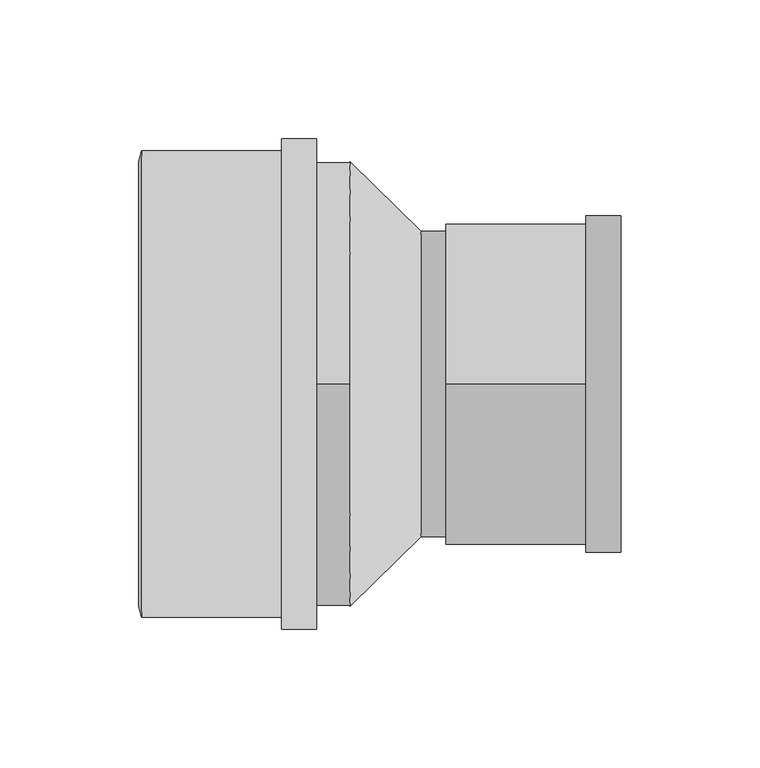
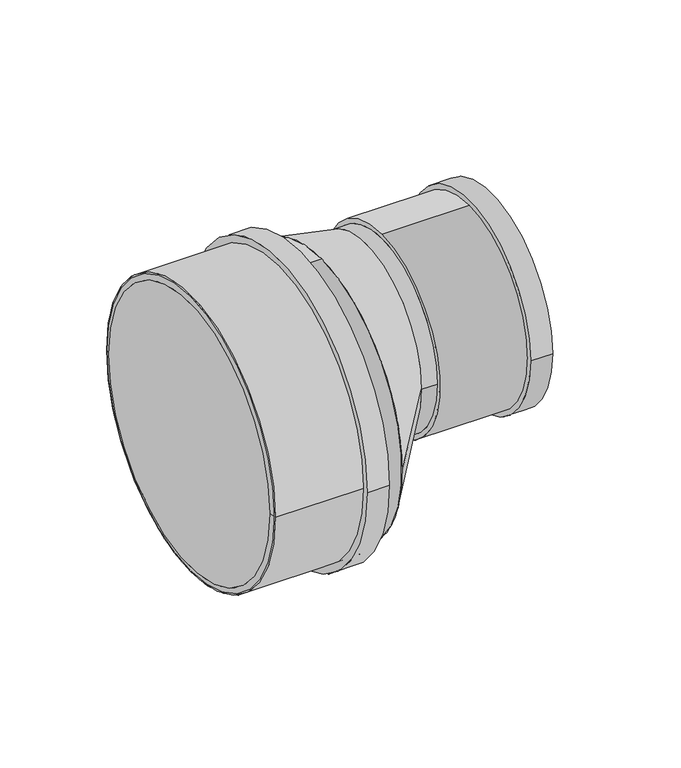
"""IFC4 building model written with IfcOpenShell, lengths in millimetres: pipe fitting geometry, Superdrain HTR-Reducer : Superdrain HTR-Reducer."""

import ifcopenshell
import ifcopenshell.guid

model = None  # the IFC model being written
_history = None  # IfcOwnerHistory: only IFC2X3 demands one
_inside = {}  # id of a spatial element -> (the spatial element, [elements in it])
_under = {}  # id of a project, library or spatial element -> (it, [spatial elements below it])
_declared = {}  # id of a project -> (the project, [libraries it declares])
_typed = {}  # id of a type object -> (the type object, [elements of that type])
_made_of = {}  # id of a material, layer set ... -> (it, [elements and type objects made of it])


def new_model(schema):
    """Start an empty IFC model of exactly this schema.

    Asked for "IFC4X3", IfcOpenShell would pick the latest addendum, in which some entities
    have other attributes; the version numbers below select the first issue.
    IFC2X3 requires an IfcOwnerHistory on every rooted entity: one is made here for all.
    """
    global model, _history
    if schema == "IFC4X3":
        model = ifcopenshell.file(schema_version=(4, 3, 0, 0))
    else:
        model = ifcopenshell.file(schema=schema)
    _inside.clear()
    _under.clear()
    _declared.clear()
    _typed.clear()
    _made_of.clear()
    _history = None
    if model.schema == "IFC2X3":
        org = make("IfcOrganization", Name="unknown")
        user = make(
            "IfcPersonAndOrganization",
            ThePerson=make("IfcPerson", FamilyName="unknown"),
            TheOrganization=org,
        )
        app = make(
            "IfcApplication",
            ApplicationDeveloper=org,
            Version="unknown",
            ApplicationFullName="unknown",
            ApplicationIdentifier="unknown",
        )
        _history = make(
            "IfcOwnerHistory",
            OwningUser=user,
            OwningApplication=app,
            ChangeAction="ADDED",
            CreationDate=0,
        )
    return model


def make(cls, **values):
    """One entity of the class cls with the attributes given. An attribute that is None is left unset."""
    return model.create_entity(
        cls, **{name: value for name, value in values.items() if value is not None}
    )


def rooted(cls, **values):
    """An entity with a GlobalId (a new one), such as an element, a storey or a relation."""
    return make(cls, GlobalId=ifcopenshell.guid.new(), OwnerHistory=_history, **values)


def si_unit(unit_type, name, prefix=None):
    """IfcSIUnit, for example si_unit("LENGTHUNIT", "METRE", prefix="MILLI")."""
    return make("IfcSIUnit", UnitType=unit_type, Prefix=prefix, Name=name)


def assignment(units):
    """IfcUnitAssignment: the units of a project."""
    return None if units is None else make("IfcUnitAssignment", Units=units)


def point(xyz):
    """IfcCartesianPoint."""
    return None if xyz is None else make("IfcCartesianPoint", Coordinates=xyz)


def direction(xyz):
    """IfcDirection."""
    return None if xyz is None else make("IfcDirection", DirectionRatios=xyz)


def frame(location, z_axis=None, x_axis=None):
    """IfcAxis2Placement3D, a coordinate frame: its origin and axes. An axis left out is left unset."""
    return make(
        "IfcAxis2Placement3D",
        Location=point(location),
        Axis=direction(z_axis),
        RefDirection=direction(x_axis),
    )


def frame_2d(location, x_axis=None):
    """IfcAxis2Placement2D, a coordinate frame in the plane: its origin and x axis."""
    return make(
        "IfcAxis2Placement2D", Location=point(location), RefDirection=direction(x_axis)
    )


def origin():
    """The frame at (0, 0, 0) with its axes left unset."""
    return frame((0.0, 0.0, 0.0))


def origin_2d():
    """The frame at (0, 0) in the plane with its x axis left unset."""
    return frame_2d((0.0, 0.0))


def place(relative_to, where):
    """IfcLocalPlacement: puts the frame where relative to a parent placement (None: the world)."""
    return make(
        "IfcLocalPlacement", PlacementRelTo=relative_to, RelativePlacement=where
    )


def context(
    kind, dimensions, precision=None, world=None, true_north=None, identifier=None
):
    """IfcGeometricRepresentationContext, for example the 3D "Model" context."""
    return make(
        "IfcGeometricRepresentationContext",
        ContextIdentifier=identifier,
        ContextType=kind,
        CoordinateSpaceDimension=dimensions,
        Precision=precision,
        WorldCoordinateSystem=world,
        TrueNorth=true_north,
    )


def project(units=None, contexts=None):
    """IfcProject with its units and contexts."""
    return rooted(
        "IfcProject",
        Name="project",
        RepresentationContexts=contexts,
        UnitsInContext=assignment(units),
    )


def spatial(cls, under=None, at=None, **own):
    """A site, building, storey or space (cls), placed at a placement, below another one or the project."""
    s = rooted(cls, ObjectPlacement=at, **own)
    if under is not None:
        _under.setdefault(under.id(), (under, []))[1].append(s)
    return s


def polyline(points):
    """IfcPolyline through the points."""
    return make("IfcPolyline", Points=[point(p) for p in points])


def circle_curve(where, radius):
    """IfcCircle in the frame where."""
    return make("IfcCircle", Position=where, Radius=radius)


def trimmed(basis, trim1, trim2, sense, master):
    """IfcTrimmedCurve: the piece of a basis curve between two trims."""
    return make(
        "IfcTrimmedCurve",
        BasisCurve=basis,
        Trim1=trim1,
        Trim2=trim2,
        SenseAgreement=sense,
        MasterRepresentation=master,
    )


def segment(curve, same_sense, transition):
    """IfcCompositeCurveSegment."""
    return make(
        "IfcCompositeCurveSegment",
        Transition=transition,
        SameSense=same_sense,
        ParentCurve=curve,
    )


def composite_curve(segments, self_intersect=None):
    """IfcCompositeCurve: segments joined end to end."""
    return make("IfcCompositeCurve", Segments=segments, SelfIntersect=self_intersect)


def outline(outer, holes=None, kind="AREA"):
    """IfcArbitraryClosedProfileDef: a profile drawn as a closed curve; with holes, ...WithVoids."""
    if holes is None:
        return make("IfcArbitraryClosedProfileDef", ProfileType=kind, OuterCurve=outer)
    return make(
        "IfcArbitraryProfileDefWithVoids",
        ProfileType=kind,
        OuterCurve=outer,
        InnerCurves=holes,
    )


def extrude(swept, where, along, depth):
    """IfcExtrudedAreaSolid: the profile swept, set in the frame where, extruded along a direction by depth."""
    return make(
        "IfcExtrudedAreaSolid",
        SweptArea=swept,
        Position=where,
        ExtrudedDirection=direction(along),
        Depth=depth,
    )


def shape(context_of_items, identifier, shape_type, items):
    """IfcShapeRepresentation: the items that make up one representation, for example the "Body"."""
    return make(
        "IfcShapeRepresentation",
        ContextOfItems=context_of_items,
        RepresentationIdentifier=identifier,
        RepresentationType=shape_type,
        Items=items,
    )


def source(mapping_origin, context_of_items, identifier, shape_type, items):
    """IfcRepresentationMap: a shape defined once, which mapped items show again and again."""
    return make(
        "IfcRepresentationMap",
        MappingOrigin=mapping_origin,
        MappedRepresentation=shape(context_of_items, identifier, shape_type, items),
    )


def transform(
    local_origin,
    x_axis=None,
    y_axis=None,
    z_axis=None,
    scale=None,
    scale2=None,
    scale3=None,
    uniform=True,
):
    """IfcCartesianTransformationOperator3D, or its non-uniform kind. x_axis, y_axis, z_axis: its Axis1, 2, 3."""
    if uniform:
        return make(
            "IfcCartesianTransformationOperator3D",
            Axis1=direction(x_axis),
            Axis2=direction(y_axis),
            LocalOrigin=point(local_origin),
            Scale=scale,
            Axis3=direction(z_axis),
        )
    return make(
        "IfcCartesianTransformationOperator3DnonUniform",
        Axis1=direction(x_axis),
        Axis2=direction(y_axis),
        LocalOrigin=point(local_origin),
        Scale=scale,
        Axis3=direction(z_axis),
        Scale2=scale2,
        Scale3=scale3,
    )


def mapped(mapping_source, mapping_target):
    """IfcMappedItem: shows the shape of a source again, moved by a transform."""
    return make(
        "IfcMappedItem", MappingSource=mapping_source, MappingTarget=mapping_target
    )


def made_of(thing, what):
    """Note that an element or type object is made of a material, layer set ...; save() writes the relation."""
    if what is not None:
        _made_of.setdefault(what.id(), (what, []))[1].append(thing)
    return thing


def element(
    cls,
    number,
    at=None,
    inside=None,
    cuts=None,
    type_object=None,
    material=None,
    context=None,
    identifier="Body",
    shape_type=None,
    held_by="IfcProductDefinitionShape",
    body=None,
    shapes=None,
    **own,
):
    """One element of the class cls, such as IfcWall. Its Tag is "e" and its number.

    at: its placement. inside: the storey or other place that contains it. cuts: it is an
    opening in that element (IfcRelVoidsElement). A single representation is given by context,
    identifier, shape_type and body (its items); several are given by shapes. held_by: the class
    of the entity that holds the representations. save() writes the other relations.
    """
    e = rooted(cls, Tag="e%d" % number, ObjectPlacement=at, **own)
    if body is not None:
        shapes = [shape(context, identifier, shape_type, body)]
    if shapes is not None:
        e.Representation = make(held_by, Representations=shapes)
    if inside is not None:
        _inside.setdefault(inside.id(), (inside, []))[1].append(e)
    if cuts is not None:
        rooted(
            "IfcRelVoidsElement", RelatingBuildingElement=cuts, RelatedOpeningElement=e
        )
    if type_object is not None:
        _typed.setdefault(type_object.id(), (type_object, []))[1].append(e)
    return made_of(e, material)


def aggregate(whole, parts):
    """IfcRelAggregates: a whole, such as a stair, and the parts it consists of."""
    return rooted("IfcRelAggregates", RelatingObject=whole, RelatedObjects=parts)


def save(model, path):
    """Write the relations noted so far, then the file.

    IfcRelAggregates (storeys below a building ...), IfcRelContainedInSpatialStructure (elements
    in a storey), IfcRelDefinesByType, IfcRelAssociatesMaterial and IfcRelDeclares: one each for
    every whole, place, type object, material and project.
    """
    for whole, parts in _under.values():
        aggregate(whole, parts)
    for where, things in _inside.values():
        rooted(
            "IfcRelContainedInSpatialStructure",
            RelatedElements=things,
            RelatingStructure=where,
        )
    for kind, things in _typed.values():
        rooted("IfcRelDefinesByType", RelatedObjects=things, RelatingType=kind)
    for what, things in _made_of.values():
        rooted("IfcRelAssociatesMaterial", RelatedObjects=things, RelatingMaterial=what)
    for by, libraries in _declared.values():
        rooted("IfcRelDeclares", RelatingContext=by, RelatedDefinitions=libraries)
    model.write(path)


def plane_surface(at):
    """IfcPlane: the flat surface through the origin of the frame at, square to its z axis."""
    return make("IfcPlane", Position=at)


def revolved_surface(curve, axis_point, axis_direction):
    """IfcSurfaceOfRevolution: the curve turned about the line through axis_point along axis_direction."""
    return make(
        "IfcSurfaceOfRevolution",
        SweptCurve=make("IfcArbitraryOpenProfileDef", ProfileType="CURVE", Curve=curve),
        AxisPosition=make("IfcAxis1Placement", Location=point(axis_point), Axis=direction(axis_direction)),
    )


def spline_surface(u_degree, v_degree, points, u_multiplicities, v_multiplicities, u_knots, v_knots, weights=None):
    """IfcBSplineSurfaceWithKnots; with weights, IfcRationalBSplineSurfaceWithKnots. points: one row for each step in u."""
    own = dict(
        UDegree=u_degree,
        VDegree=v_degree,
        ControlPointsList=[[point(p) for p in row] for row in points],
        SurfaceForm="UNSPECIFIED",
        UClosed=False,
        VClosed=False,
        SelfIntersect=False,
        UMultiplicities=u_multiplicities,
        VMultiplicities=v_multiplicities,
        UKnots=u_knots,
        VKnots=v_knots,
        KnotSpec="UNSPECIFIED",
    )
    if weights is None:
        return make("IfcBSplineSurfaceWithKnots", **own)
    return make("IfcRationalBSplineSurfaceWithKnots", WeightsData=weights, **own)


def advanced_brep(points, edges, surfaces, faces):
    """IfcAdvancedBrep: a solid bounded by faces that lie on surfaces and meet in shared edges.

    An edge is (start, end): straight between two places in points (the first is 0);
    or (start, end, curve); or (start, end, curve, False) where it runs against its curve.
    A face is (place in surfaces, loops), or (place, loops, False) where it looks against
    its surface's normal. A loop lists edges by number (the first is 1), with a minus sign
    where the edge is run from its end to its start. The first loop is the outer one.
    """
    corners = [point(p) for p in points]
    vertices = [make("IfcVertexPoint", VertexGeometry=c) for c in corners]
    made = []
    for start, end, *more in edges:
        made.append(
            make(
                "IfcEdgeCurve",
                EdgeStart=vertices[start],
                EdgeEnd=vertices[end],
                EdgeGeometry=more[0] if more else make("IfcPolyline", Points=[corners[start], corners[end]]),
                SameSense=more[1] if len(more) > 1 else True,
            )
        )
    hull = []
    for where, loops, *sense in faces:
        bounds = []
        for j, loop in enumerate(loops):
            ring = [make("IfcOrientedEdge", EdgeElement=made[abs(k) - 1], Orientation=k > 0) for k in loop]
            bounds.append(
                make(
                    "IfcFaceOuterBound" if j == 0 else "IfcFaceBound",
                    Bound=make("IfcEdgeLoop", EdgeList=ring),
                    Orientation=True,
                )
            )
        hull.append(make("IfcAdvancedFace", Bounds=bounds, FaceSurface=surfaces[where], SameSense=sense[0] if sense else True))
    return make("IfcAdvancedBrep", Outer=make("IfcClosedShell", CfsFaces=hull))


def pipe_fitting_930e2915(model_context):
    return source(origin(), model_context, "Body", "SolidModel", [
        extrude(outline(composite_curve([segment(trimmed(circle_curve(frame_2d((0.0, 0.1450234)), 84.0), [point((84.0, 0.1450234))], [point((-84.0, 0.1450234))], False, "CARTESIAN"), True, "CONTINUOUS"), segment(trimmed(circle_curve(frame_2d((0.0, 0.1450234)), 84.0), [point((-84.0, 0.1450234))], [point((84.0, 0.1450234))], False, "CARTESIAN"), True, "CONTINUOUS")], self_intersect=False), holes=[composite_curve([segment(trimmed(circle_curve(frame_2d((0.0, 0.1450234)), 80.0), [point((80.0, 0.1450234))], [point((-80.0, 0.1450234))], True, "CARTESIAN"), True, "CONTINUOUS"), segment(trimmed(circle_curve(frame_2d((0.0, 0.1450234)), 80.0), [point((-80.0, 0.1450234))], [point((80.0, 0.1450234))], True, "CARTESIAN"), True, "CONTINUOUS")], self_intersect=False)]), frame((-75.0, 0.0, 0.0), z_axis=(1.0, 0.0, 0.0), x_axis=(0.0, 1.0, 0.0)), (0.0, 0.0, 1.0), 63.0),
        extrude(outline(composite_curve([segment(trimmed(circle_curve(frame_2d((0.0, 0.1450234)), 88.2), [point((88.2, 0.1450234))], [point((-88.2, 0.1450234))], False, "CARTESIAN"), True, "CONTINUOUS"), segment(trimmed(circle_curve(frame_2d((0.0, 0.1450234)), 88.2), [point((-88.2, 0.1450234))], [point((88.2, 0.1450234))], False, "CARTESIAN"), True, "CONTINUOUS")], self_intersect=False), holes=[composite_curve([segment(trimmed(circle_curve(frame_2d((0.0, 0.1450234)), 80.0), [point((80.0, 0.1450234))], [point((-80.0, 0.1450234))], True, "CARTESIAN"), True, "CONTINUOUS"), segment(trimmed(circle_curve(frame_2d((0.0, 0.1450234)), 80.0), [point((-80.0, 0.1450234))], [point((80.0, 0.1450234))], True, "CARTESIAN"), True, "CONTINUOUS")], self_intersect=False)]), frame((-24.6, 0.0, 0.0), z_axis=(1.0, 0.0, 0.0), x_axis=(0.0, 1.0, 0.0)), (0.0, 0.0, 1.0), 12.6),
        advanced_brep(
        [(-76.0, 80.0, 0.1450234), (-76.0, -80.0, 0.1450234), (-75.0, 84.0, 0.1450234), (-75.0, -84.0, 0.1450234)],
        [
            (0, 1, circle_curve(frame((-76.0, 0.0, 0.1450234), z_axis=(-1.0, 0.0, 0.0), x_axis=(0.0, 1.0000000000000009, 0.0)), 80.0)),
            (1, 0, circle_curve(frame((-76.0, 0.0, 0.1450234), z_axis=(-1.0, 0.0, 0.0), x_axis=(0.0, -1.0000000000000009, 0.0)), 80.0)),
            (2, 3, circle_curve(frame((-75.0, 0.0, 0.1450234), z_axis=(1.0, 0.0, 0.0), x_axis=(0.0, -1.0000000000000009, 0.0)), 84.0)),
            (3, 2, circle_curve(frame((-75.0, 0.0, 0.1450234), z_axis=(1.0, 0.0, 0.0), x_axis=(0.0, 1.0000000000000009, 0.0)), 84.0)),
            (3, 1),
            (0, 2),
        ],
        [
            plane_surface(frame((-76.0, 0.0, 0.1450234), z_axis=(-1.0, 0.0, 0.0), x_axis=(0.0, 0.0, -1.0))),
            plane_surface(frame((-75.0, 0.0, 0.1450234), z_axis=(1.0, 0.0, 0.0), x_axis=(0.0, 0.0, -1.0))),
            revolved_surface(polyline([(-76.0, 79.99999999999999, 0.1450234), (-75.0, 84.0, 0.1450234)]), (-96.0, 0.0, 0.1450234), (1.0000000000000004, 0.0, 0.0)),
            revolved_surface(polyline([(-76.0, -79.99999999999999, 0.1450234), (-75.0, -84.0, 0.1450234)]), (-96.0, 0.0, 0.1450234), (1.0000000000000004, 0.0, 0.0)),
        ],
        [
            (0, [[1, 2]]),
            (1, [[3, 4]]),
            (2, [[-4, 5, -1, 6]]),
            (3, [[-3, -6, -2, -5]]),
        ],
    ),
        advanced_brep(
        [(25.6, -55.0, 25.0), (25.6, 55.0, 25.0), (0.0, -80.0, 0.0), (0.0, 80.0, 0.0)],
        [
            (0, 1, circle_curve(frame((25.6, 0.0, 25.0), z_axis=(1.0, 0.0, 0.0), x_axis=(0.0, 1.0, 0.0)), 55.0)),
            (1, 0, circle_curve(frame((25.6, 0.0, 25.0), z_axis=(1.0, 0.0, 0.0), x_axis=(0.0, 1.0, 0.0)), 55.0)),
            (2, 3, circle_curve(frame((0.0, 0.0, 0.0), z_axis=(-1.0, 0.0, 0.0), x_axis=(0.0, 1.0, 0.0)), 80.0)),
            (3, 2, circle_curve(frame((0.0, 0.0, 0.0), z_axis=(-1.0, 0.0, 0.0), x_axis=(0.0, 1.0, 0.0)), 80.0)),
            (3, 1),
            (0, 2),
        ],
        [
            plane_surface(frame((25.6, 0.0, 25.0), z_axis=(1.0, 0.0, 0.0), x_axis=(0.0, 0.0, -1.0))),
            plane_surface(frame((0.0, 0.0, 0.0), z_axis=(-1.0, 0.0, 0.0), x_axis=(0.0, 0.0, -1.0))),
            spline_surface(2, 1, [[(0.0, -80.0, 0.0), (25.6, -55.0, 25.0)], [(0.0, -80.0, -80.0), (25.6, -55.0, -30.0)], [(0.0, 0.0, -80.0), (25.6, 0.0, -30.0)], [(0.0, 80.0, -80.0), (25.6, 55.0, -30.0)], [(0.0, 80.0, 0.0), (25.6, 55.0, 25.0)]], [3, 2, 3], [2, 2], [0.0, 1.0, 2.0], [0.0, 1.0], weights=[[1.0, 1.0], [0.7071067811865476, 0.7071067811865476], [1.0, 1.0], [0.7071067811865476, 0.7071067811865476], [1.0, 1.0]]),
            spline_surface(2, 1, [[(0.0, 80.0, 0.0), (25.6, 55.0, 25.0)], [(0.0, 80.0, 80.0), (25.6, 55.0, 80.0)], [(0.0, 0.0, 80.0), (25.6, 0.0, 80.0)], [(0.0, -80.0, 80.0), (25.6, -55.0, 80.0)], [(0.0, -80.0, 0.0), (25.6, -55.0, 25.0)]], [3, 2, 3], [2, 2], [0.0, 1.0, 2.0], [0.0, 1.0], weights=[[1.0, 1.0], [0.7071067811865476, 0.7071067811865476], [1.0, 1.0], [0.7071067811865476, 0.7071067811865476], [1.0, 1.0]]),
        ],
        [
            (0, [[1, 2]]),
            (1, [[3, 4]]),
            (2, [[-4, 5, -1, 6]]),
            (3, [[-3, -6, -2, -5]]),
        ],
    ),
        extrude(outline(composite_curve([segment(trimmed(circle_curve(frame_2d((0.0, 25.0)), 55.0), [point((-55.0, 25.0))], [point((55.0, 25.0))], False, "CARTESIAN"), True, "CONTINUOUS"), segment(trimmed(circle_curve(frame_2d((0.0, 25.0)), 55.0), [point((55.0, 25.0))], [point((-55.0, 25.0))], False, "CARTESIAN"), True, "CONTINUOUS")], self_intersect=False)), frame((25.6, 0.0, 0.0), z_axis=(1.0, 0.0, 0.0), x_axis=(0.0, 1.0, 0.0)), (0.0, 0.0, 1.0), 9.0),
        extrude(outline(composite_curve([segment(trimmed(circle_curve(frame_2d((0.0, 25.0)), 60.6375), [point((-60.6375, 25.0))], [point((60.6375, 25.0))], False, "CARTESIAN"), True, "CONTINUOUS"), segment(trimmed(circle_curve(frame_2d((0.0, 25.0)), 60.6375), [point((60.6375, 25.0))], [point((-60.6375, 25.0))], False, "CARTESIAN"), True, "CONTINUOUS")], self_intersect=False), holes=[composite_curve([segment(trimmed(circle_curve(frame_2d((0.0, 25.0)), 55.0), [point((55.0, 25.0))], [point((-55.0, 25.0))], True, "CARTESIAN"), True, "CONTINUOUS"), segment(trimmed(circle_curve(frame_2d((0.0, 25.0)), 55.0), [point((-55.0, 25.0))], [point((55.0, 25.0))], True, "CARTESIAN"), True, "CONTINUOUS")], self_intersect=False)]), frame((85.0, 0.0, 0.0), z_axis=(1.0, 0.0, 0.0), x_axis=(0.0, 1.0, 0.0)), (0.0, 0.0, 1.0), 12.6),
        extrude(outline(composite_curve([segment(trimmed(circle_curve(frame_2d((0.0, 25.0)), 57.75), [point((0.0, 82.75))], [point((0.0, -32.75))], False, "CARTESIAN"), True, "CONTINUOUS"), segment(trimmed(circle_curve(frame_2d((0.0, 25.0)), 57.75), [point((0.0, -32.75))], [point((0.0, 82.75))], False, "CARTESIAN"), True, "CONTINUOUS")], self_intersect=False), holes=[composite_curve([segment(trimmed(circle_curve(frame_2d((0.0, 25.0)), 55.0), [point((55.0, 25.0))], [point((-55.0, 25.0))], True, "CARTESIAN"), True, "CONTINUOUS"), segment(trimmed(circle_curve(frame_2d((0.0, 25.0)), 55.0), [point((-55.0, 25.0))], [point((55.0, 25.0))], True, "CARTESIAN"), True, "CONTINUOUS")], self_intersect=False)]), frame((34.6, 0.0, 0.0), z_axis=(1.0, 0.0, 0.0), x_axis=(0.0, 1.0, 0.0)), (0.0, 0.0, 1.0), 63.0),
        extrude(outline(composite_curve([segment(trimmed(circle_curve(origin_2d(), 80.0), [point((0.0, 80.0))], [point((0.0, -80.0))], False, "CARTESIAN"), True, "CONTINUOUS"), segment(trimmed(circle_curve(origin_2d(), 80.0), [point((0.0, -80.0))], [point((0.0, 80.0))], False, "CARTESIAN"), True, "CONTINUOUS")], self_intersect=False)), frame((-75.0, 0.0, 0.0), z_axis=(1.0, 0.0, 0.0), x_axis=(0.0, 1.0, 0.0)), (0.0, 0.0, 1.0), 75.0),
    ])


if __name__ == "__main__":
    model = new_model("IFC4")
    model_context = context("Model", 3, world=origin())
    ifc_project = project(units=[si_unit("LENGTHUNIT", "METRE", prefix="MILLI")], contexts=[model_context])
    site = spatial("IfcSite", under=ifc_project)
    building = spatial("IfcBuilding", under=site)
    placement = place(None, origin())
    pipe_fitting_shape = pipe_fitting_930e2915(model_context)
    element("IfcPipeFitting", 1, ObjectType="Superdrain HTR-Reducer : Superdrain HTR-Reducer", at=placement, inside=building, context=model_context, shape_type="MappedRepresentation", body=[
        mapped(pipe_fitting_shape, transform((0.0, 0.0, 0.0), x_axis=(1.0, 0.0, 0.0), y_axis=(0.0, 1.0, 0.0), z_axis=(0.0, 0.0, 1.0))),
    ])
    save(model, "model.ifc")
